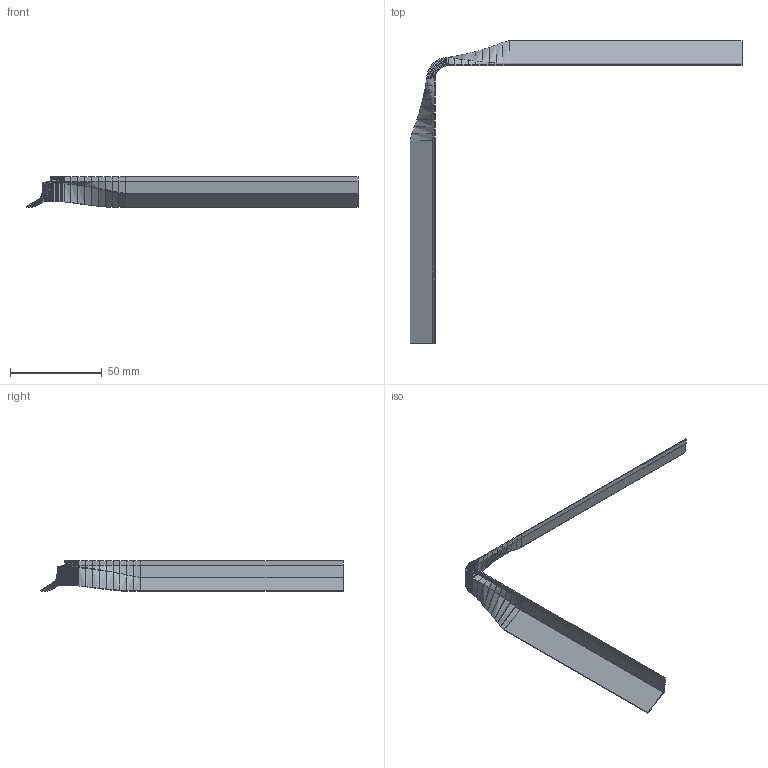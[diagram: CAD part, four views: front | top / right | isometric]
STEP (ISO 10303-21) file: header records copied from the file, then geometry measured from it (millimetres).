
FILE_DESCRIPTION(('Open CASCADE Model'),'2;1');
FILE_NAME('Open CASCADE Shape Model','2026-10-24T08:15:54',('Author'),( 'Open CASCADE'),'Open CASCADE STEP processor 8.0','build123d', 'Unknown');
FILE_SCHEMA(('AUTOMOTIVE_DESIGN { 1 0 10303 214 1 1 1 1 }'));
Length unit declared in the file: millimetre
Products named in the file (1): SOLID
Bounding box: 180.53 x 164.53 x 16.8 mm (x, y, z)
Volume: 4286.6 mm3; surface area: 14710.4 mm2
Topology: 1 solids, 1 shells, 354 faces, 712 edges, 360 vertices
Faces by surface type: bspline 204, plane 150
Entity records: 17072 total; most frequent: CARTESIAN_POINT 4201, DIRECTION 1700, ORIENTED_EDGE 1424, PCURVE 1424, DEFINITIONAL_REPRESENTATION 1424, LINE 1398, VECTOR 1398, B_SPLINE_CURVE_WITH_KNOTS 738
